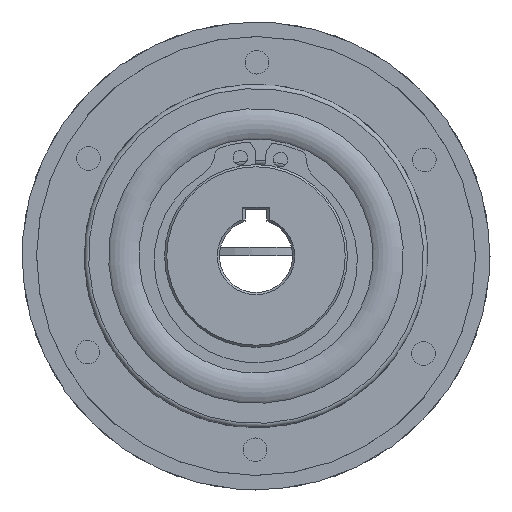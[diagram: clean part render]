
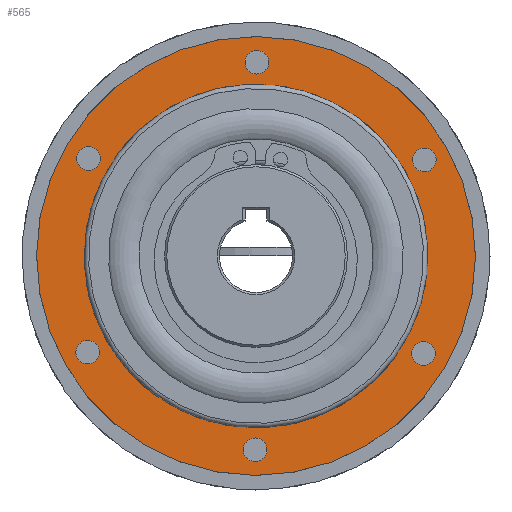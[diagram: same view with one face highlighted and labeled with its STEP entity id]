
A CAD part, left-side view. The second image highlights one B-rep face of the part: STEP entity #565.
In plain terms, the highlighted planar face has unit normal (-1, 0, 0).
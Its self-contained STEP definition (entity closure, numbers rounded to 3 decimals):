
#565 = ADVANCED_FACE( '', ( #920, #921, #922, #923, #924, #925, #926, #927 ), #928, .F. );
#920 = FACE_OUTER_BOUND( '', #1180, .T. );
#921 = FACE_BOUND( '', #1181, .T. );
#922 = FACE_BOUND( '', #1182, .T. );
#923 = FACE_BOUND( '', #1183, .T. );
#924 = FACE_BOUND( '', #1184, .T. );
#925 = FACE_BOUND( '', #1185, .T. );
#926 = FACE_BOUND( '', #1186, .T. );
#927 = FACE_BOUND( '', #1187, .T. );
#928 = PLANE( '', #1188 );
#1180 = EDGE_LOOP( '', ( #1627 ) );
#1181 = EDGE_LOOP( '', ( #1628 ) );
#1182 = EDGE_LOOP( '', ( #1629 ) );
#1183 = EDGE_LOOP( '', ( #1630 ) );
#1184 = EDGE_LOOP( '', ( #1631 ) );
#1185 = EDGE_LOOP( '', ( #1632 ) );
#1186 = EDGE_LOOP( '', ( #1633 ) );
#1187 = EDGE_LOOP( '', ( #1634 ) );
#1188 = AXIS2_PLACEMENT_3D( '', #1635, #1636, #1637 );
#1627 = ORIENTED_EDGE( '', *, *, #1906, .T. );
#1628 = ORIENTED_EDGE( '', *, *, #1907, .T. );
#1629 = ORIENTED_EDGE( '', *, *, #1908, .T. );
#1630 = ORIENTED_EDGE( '', *, *, #1909, .T. );
#1631 = ORIENTED_EDGE( '', *, *, #1910, .T. );
#1632 = ORIENTED_EDGE( '', *, *, #1911, .T. );
#1633 = ORIENTED_EDGE( '', *, *, #1912, .T. );
#1634 = ORIENTED_EDGE( '', *, *, #1913, .F. );
#1635 = CARTESIAN_POINT( '', ( -12., 30., 0. ) );
#1636 = DIRECTION( '', ( 1., 0., 0. ) );
#1637 = DIRECTION( '', ( 0., 1., 0. ) );
#1906 = EDGE_CURVE( '', #2150, #2150, #2151, .T. );
#1907 = EDGE_CURVE( '', #2152, #2152, #2153, .T. );
#1908 = EDGE_CURVE( '', #2154, #2154, #2155, .T. );
#1909 = EDGE_CURVE( '', #2156, #2156, #2157, .T. );
#1910 = EDGE_CURVE( '', #2158, #2158, #2159, .T. );
#1911 = EDGE_CURVE( '', #2160, #2160, #2161, .T. );
#1912 = EDGE_CURVE( '', #2162, #2162, #2163, .T. );
#1913 = EDGE_CURVE( '', #2164, #2164, #2165, .T. );
#2150 = VERTEX_POINT( '', #2646 );
#2151 = CIRCLE( '', #2647, 30. );
#2152 = VERTEX_POINT( '', #2648 );
#2153 = CIRCLE( '', #2649, 1.621 );
#2154 = VERTEX_POINT( '', #2650 );
#2155 = CIRCLE( '', #2651, 1.621 );
#2156 = VERTEX_POINT( '', #2652 );
#2157 = CIRCLE( '', #2653, 1.621 );
#2158 = VERTEX_POINT( '', #2654 );
#2159 = CIRCLE( '', #2655, 1.621 );
#2160 = VERTEX_POINT( '', #2656 );
#2161 = CIRCLE( '', #2657, 1.621 );
#2162 = VERTEX_POINT( '', #2658 );
#2163 = CIRCLE( '', #2659, 1.621 );
#2164 = VERTEX_POINT( '', #2660 );
#2165 = CIRCLE( '', #2661, 23.5 );
#2646 = CARTESIAN_POINT( '', ( -12., 0., 30. ) );
#2647 = AXIS2_PLACEMENT_3D( '', #2846, #2847, #2848 );
#2648 = CARTESIAN_POINT( '', ( -12., 24.354, 14.061 ) );
#2649 = AXIS2_PLACEMENT_3D( '', #2849, #2850, #2851 );
#2650 = CARTESIAN_POINT( '', ( -12., 24.354, -14.061 ) );
#2651 = AXIS2_PLACEMENT_3D( '', #2852, #2853, #2854 );
#2652 = CARTESIAN_POINT( '', ( -12., 0., -28.121 ) );
#2653 = AXIS2_PLACEMENT_3D( '', #2855, #2856, #2857 );
#2654 = CARTESIAN_POINT( '', ( -12., -24.354, -14.061 ) );
#2655 = AXIS2_PLACEMENT_3D( '', #2858, #2859, #2860 );
#2656 = CARTESIAN_POINT( '', ( -12., -24.354, 14.061 ) );
#2657 = AXIS2_PLACEMENT_3D( '', #2861, #2862, #2863 );
#2658 = CARTESIAN_POINT( '', ( -12., 0., 28.121 ) );
#2659 = AXIS2_PLACEMENT_3D( '', #2864, #2865, #2866 );
#2660 = CARTESIAN_POINT( '', ( -12., 0., 23.5 ) );
#2661 = AXIS2_PLACEMENT_3D( '', #2867, #2868, #2869 );
#2846 = CARTESIAN_POINT( '', ( -12., 0., 0. ) );
#2847 = DIRECTION( '', ( -1., 0., 0. ) );
#2848 = DIRECTION( '', ( 0., 0., 1. ) );
#2849 = CARTESIAN_POINT( '', ( -12., 22.95, 13.25 ) );
#2850 = DIRECTION( '', ( 1., 0., 0. ) );
#2851 = DIRECTION( '', ( 0., 0.866, 0.5 ) );
#2852 = CARTESIAN_POINT( '', ( -12., 22.95, -13.25 ) );
#2853 = DIRECTION( '', ( 1., 0., 0. ) );
#2854 = DIRECTION( '', ( 0., 0.866, -0.5 ) );
#2855 = CARTESIAN_POINT( '', ( -12., 0., -26.5 ) );
#2856 = DIRECTION( '', ( 1., 0., 0. ) );
#2857 = DIRECTION( '', ( 0., 0., -1. ) );
#2858 = CARTESIAN_POINT( '', ( -12., -22.95, -13.25 ) );
#2859 = DIRECTION( '', ( 1., 0., 0. ) );
#2860 = DIRECTION( '', ( 0., -0.866, -0.5 ) );
#2861 = CARTESIAN_POINT( '', ( -12., -22.95, 13.25 ) );
#2862 = DIRECTION( '', ( 1., 0., 0. ) );
#2863 = DIRECTION( '', ( 0., -0.866, 0.5 ) );
#2864 = CARTESIAN_POINT( '', ( -12., 0., 26.5 ) );
#2865 = DIRECTION( '', ( 1., 0., 0. ) );
#2866 = DIRECTION( '', ( 0., 0., 1. ) );
#2867 = CARTESIAN_POINT( '', ( -12., 0., 0. ) );
#2868 = DIRECTION( '', ( -1., 0., 0. ) );
#2869 = DIRECTION( '', ( 0., 0., 1. ) );
